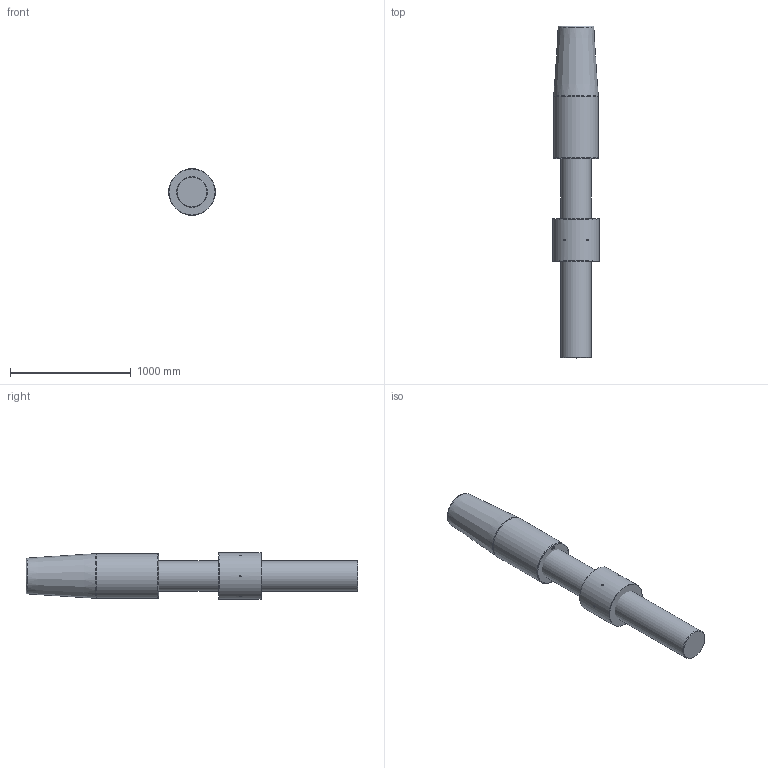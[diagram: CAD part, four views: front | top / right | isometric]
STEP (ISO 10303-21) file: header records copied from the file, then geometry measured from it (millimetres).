
FILE_DESCRIPTION(/* description */ (''),/* implementation_level */ '2;1');
FILE_NAME(/* name */ 'C:\Users\ranca\Desktop\CYM\ARRANGEMENT\CYM128 52 061 0.stp',/* time_stamp */ '2021-04-23T21:09:15+02:00',/* author */ ('ranca'),/* organization */ (''),/* preprocessor_version */ 'ST-DEVELOPER v16.13',/* originating_system */ 'Autodesk Inventor 2018',/* authorisation */ '');
FILE_SCHEMA (('AUTOMOTIVE_DESIGN { 1 0 10303 214 3 1 1 }'));
Length unit declared in the file: millimetre
Products named in the file (4): CYM128-52-061-0; CYM012-52-061-0_ROD; CYC128 52 065 0_CYL SOK_RH; CYM128-41-051-0
Assembly tree (3 placements, depth 2):
  CYM128-52-061-0
    CYM012-52-061-0_ROD
    CYC128 52 065 0_CYL SOK_RH
    CYM128-41-051-0
Bounding box: 385 x 2746 x 385 mm (x, y, z)
Volume: 248958561.6 mm3; surface area: 3734708.8 mm2
Topology: 3 solids, 3 shells, 532 faces, 1435 edges, 954 vertices
Faces by surface type: bspline 269, plane 241, cone 11, cylinder 9, torus 2
Full cylindrical faces by diameter (mm): 15 x6, 255 x1, 370 x1, 385 x1
Entity records: 18124 total; most frequent: CARTESIAN_POINT 6615, ORIENTED_EDGE 2812, DIRECTION 1419, EDGE_CURVE 1406, VERTEX_POINT 948, LINE 835, VECTOR 835, EDGE_LOOP 600
